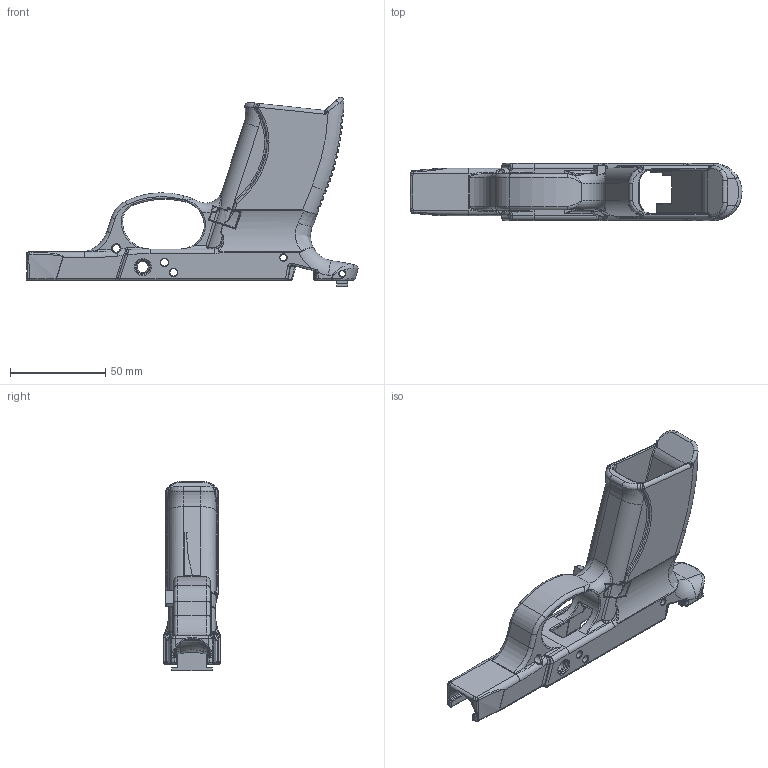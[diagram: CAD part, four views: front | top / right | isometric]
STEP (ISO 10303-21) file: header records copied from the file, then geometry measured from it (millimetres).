
FILE_DESCRIPTION(/* description */ (''),/* implementation_level */ '2;1');
FILE_NAME(/* name */ '/Users/tyler/Desktop/SR9CPackage/STEP/SR9C.step',/* time_stamp */ '2019-11-17T18:05:23-05:00',/* author */ (''),/* organization */ (''),/* preprocessor_version */ 'ST-DEVELOPER v18',/* originating_system */ 'Autodesk Translation Framework v8.12.0.6',/* authorisation */ '');
FILE_SCHEMA (('AUTOMOTIVE_DESIGN { 1 0 10303 214 3 1 1 }'));
Products named in the file (3): SR9C G19 GRIP LENGTH; Mag Catch SR9; SR9 Rear Rail
Assembly tree (2 placements, depth 2):
  SR9C G19 GRIP LENGTH
    Mag Catch SR9
    SR9 Rear Rail
Bounding box: 174.67 x 30 x 99.48 mm (x, y, z)
Volume: 74321.4 mm3; surface area: 44965.9 mm2
Topology: 3 solids, 3 shells, 1490 faces, 3548 edges, 1966 vertices
Faces by surface type: cylinder 518, bspline 498, torus 205, plane 198, sphere 42, cone 29
Full cylindrical faces by diameter (mm): 3.175 x3, 3.5 x1, 4 x6, 4.36 x1, 5.8 x2, 8 x1
Entity records: 57493 total; most frequent: CARTESIAN_POINT 25503, ORIENTED_EDGE 6934, DIRECTION 6374, EDGE_CURVE 3467, AXIS2_PLACEMENT_3D 2644, VERTEX_POINT 1968, EDGE_LOOP 1511, FACE_OUTER_BOUND 1490
